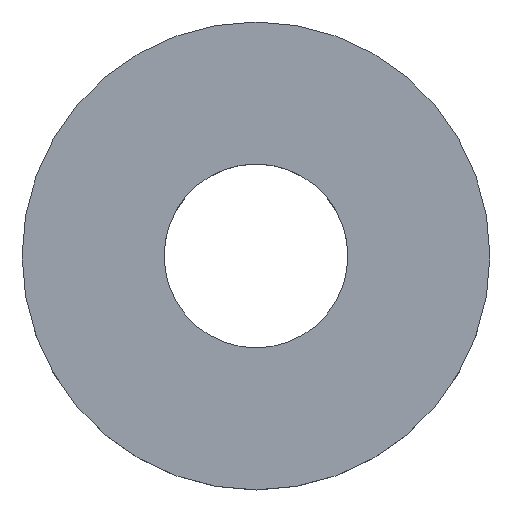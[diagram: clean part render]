
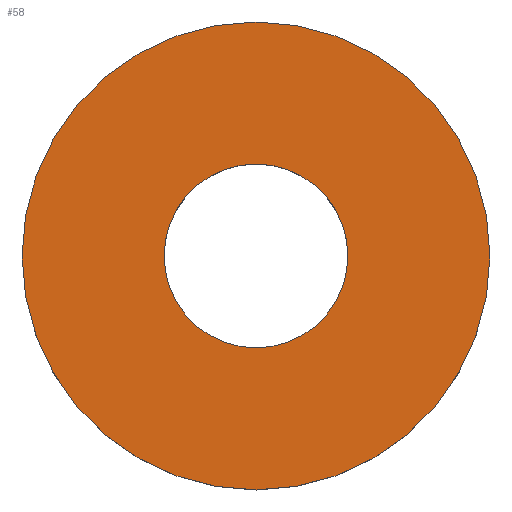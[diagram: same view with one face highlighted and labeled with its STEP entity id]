
A CAD part, top view. The second image highlights one B-rep face of the part: STEP entity #58.
In plain terms, the highlighted planar face has unit normal (0, 0, 1).
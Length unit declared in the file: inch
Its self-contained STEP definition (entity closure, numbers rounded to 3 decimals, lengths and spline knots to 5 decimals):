
#16=PLANE('',#68);
#20=FACE_BOUND('',#32,.T.);
#24=FACE_OUTER_BOUND('',#31,.T.);
#31=EDGE_LOOP('',(#51));
#32=EDGE_LOOP('',(#52));
#33=CIRCLE('',#62,0.34375);
#35=CIRCLE('',#65,0.875);
#37=VERTEX_POINT('',#89);
#39=VERTEX_POINT('',#94);
#41=EDGE_CURVE('',#37,#37,#33,.T.);
#43=EDGE_CURVE('',#39,#39,#35,.T.);
#51=ORIENTED_EDGE('',*,*,#43,.T.);
#52=ORIENTED_EDGE('',*,*,#41,.T.);
#58=ADVANCED_FACE('',(#24,#20),#16,.T.);
#62=AXIS2_PLACEMENT_3D('',#90,#73,#74);
#65=AXIS2_PLACEMENT_3D('',#95,#79,#80);
#68=AXIS2_PLACEMENT_3D('',#99,#85,#86);
#73=DIRECTION('center_axis',(0.,0.,-1.));
#74=DIRECTION('ref_axis',(-1.,0.,0.));
#79=DIRECTION('center_axis',(0.,0.,1.));
#80=DIRECTION('ref_axis',(-1.,0.,0.));
#85=DIRECTION('center_axis',(0.,0.,1.));
#86=DIRECTION('ref_axis',(1.,0.,0.));
#89=CARTESIAN_POINT('',(0.34375,0.,0.25));
#90=CARTESIAN_POINT('Origin',(0.,0.,0.25));
#94=CARTESIAN_POINT('',(0.875,0.,0.25));
#95=CARTESIAN_POINT('Origin',(0.,0.,0.25));
#99=CARTESIAN_POINT('Origin',(0.,0.,0.25));
